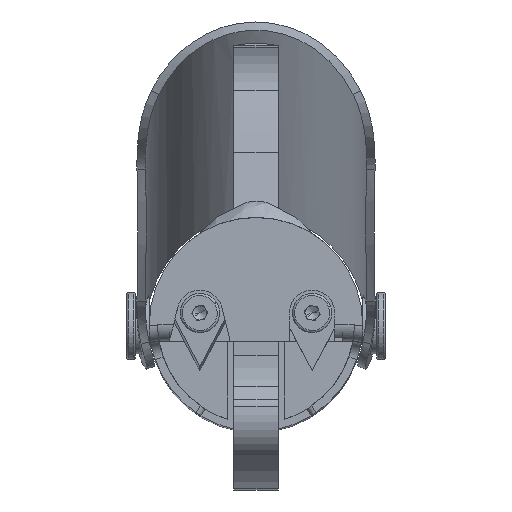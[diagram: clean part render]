
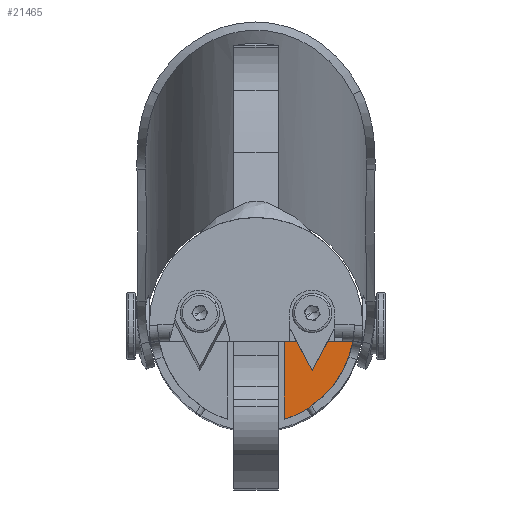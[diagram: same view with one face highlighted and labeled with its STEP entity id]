
A CAD part, top view. The second image highlights one B-rep face of the part: STEP entity #21465.
In plain terms, the highlighted planar face has unit normal (0, 0, 1).
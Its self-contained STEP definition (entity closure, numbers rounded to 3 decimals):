
#109 = VECTOR ( 'NONE', #25785, 1000. ) ;
#270 = LINE ( 'NONE', #26661, #1413 ) ;
#437 = EDGE_CURVE ( 'NONE', #32094, #4481, #270, .T. ) ;
#836 = DIRECTION ( 'NONE',  ( 0., 0., -1. ) ) ;
#1413 = VECTOR ( 'NONE', #29883, 1000. ) ;
#2336 = CIRCLE ( 'NONE', #28853, 17.5 ) ;
#2709 = ORIENTED_EDGE ( 'NONE', *, *, #437, .T. ) ;
#3899 = EDGE_CURVE ( 'NONE', #32347, #31303, #24810, .T. ) ;
#4481 = VERTEX_POINT ( 'NONE', #33049 ) ;
#5945 = CARTESIAN_POINT ( 'NONE',  ( 5., -16.875, -30. ) ) ;
#7551 = DIRECTION ( 'NONE',  ( 1., 0., 0. ) ) ;
#8694 = CARTESIAN_POINT ( 'NONE',  ( 0., 0., -30. ) ) ;
#9123 = ORIENTED_EDGE ( 'NONE', *, *, #22221, .T. ) ;
#14208 = LINE ( 'NONE', #31507, #27079 ) ;
#15206 = DIRECTION ( 'NONE',  ( 0., 0., 1. ) ) ;
#16405 = AXIS2_PLACEMENT_3D ( 'NONE', #24682, #29952, #30830 ) ;
#18842 = CARTESIAN_POINT ( 'NONE',  ( 9.505, -14.694, -30. ) ) ;
#19348 = ORIENTED_EDGE ( 'NONE', *, *, #3899, .F. ) ;
#21465 = ADVANCED_FACE ( 'NONE', ( #28027 ), #30307, .F. ) ;
#21478 = ORIENTED_EDGE ( 'NONE', *, *, #33240, .T. ) ;
#22221 = EDGE_CURVE ( 'NONE', #32347, #34533, #14208, .T. ) ;
#22963 = CARTESIAN_POINT ( 'NONE',  ( 0., 0., -30. ) ) ;
#23227 = CARTESIAN_POINT ( 'NONE',  ( 9.557, -14.779, -30. ) ) ;
#24308 = ORIENTED_EDGE ( 'NONE', *, *, #24343, .F. ) ;
#24343 = EDGE_CURVE ( 'NONE', #31303, #4481, #32851, .T. ) ;
#24682 = CARTESIAN_POINT ( 'NONE',  ( 0., 0., -30. ) ) ;
#24810 = CIRCLE ( 'NONE', #35293, 17.6 ) ;
#25296 = CARTESIAN_POINT ( 'NONE',  ( 5., 0., -30. ) ) ;
#25785 = DIRECTION ( 'NONE',  ( 0., 1., 0. ) ) ;
#26661 = CARTESIAN_POINT ( 'NONE',  ( 17.342, -3., -30. ) ) ;
#27079 = VECTOR ( 'NONE', #30719, 1000. ) ;
#28021 = CARTESIAN_POINT ( 'NONE',  ( 17.241, -3., -30. ) ) ;
#28027 = FACE_OUTER_BOUND ( 'NONE', #34950, .T. ) ;
#28345 = DIRECTION ( 'NONE',  ( -1., 0., 0. ) ) ;
#28853 = AXIS2_PLACEMENT_3D ( 'NONE', #8694, #15206, #28345 ) ;
#29883 = DIRECTION ( 'NONE',  ( -1., 0., 0. ) ) ;
#29952 = DIRECTION ( 'NONE',  ( 0., 0., -1. ) ) ;
#30307 = PLANE ( 'NONE',  #16405 ) ;
#30719 = DIRECTION ( 'NONE',  ( -0.516, 0.857, 0. ) ) ;
#30830 = DIRECTION ( 'NONE',  ( -1., 0., 0. ) ) ;
#31303 = VERTEX_POINT ( 'NONE', #5945 ) ;
#31507 = CARTESIAN_POINT ( 'NONE',  ( 10.283, -15.987, -30. ) ) ;
#32094 = VERTEX_POINT ( 'NONE', #28021 ) ;
#32347 = VERTEX_POINT ( 'NONE', #23227 ) ;
#32851 = LINE ( 'NONE', #25296, #109 ) ;
#33049 = CARTESIAN_POINT ( 'NONE',  ( 5., -3., -30. ) ) ;
#33240 = EDGE_CURVE ( 'NONE', #34533, #32094, #2336, .T. ) ;
#34533 = VERTEX_POINT ( 'NONE', #18842 ) ;
#34950 = EDGE_LOOP ( 'NONE', ( #9123, #21478, #2709, #24308, #19348 ) ) ;
#35293 = AXIS2_PLACEMENT_3D ( 'NONE', #22963, #836, #7551 ) ;
